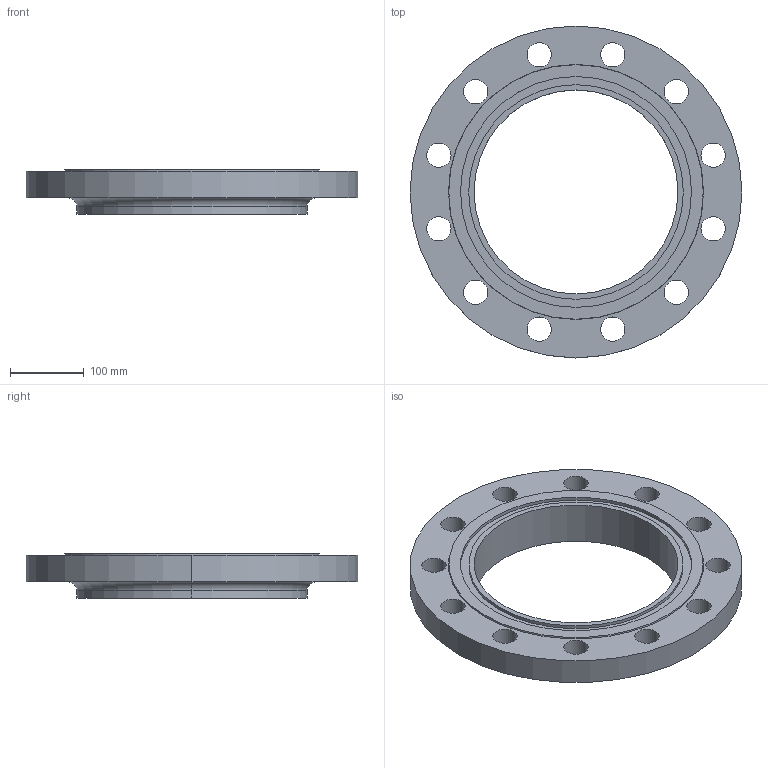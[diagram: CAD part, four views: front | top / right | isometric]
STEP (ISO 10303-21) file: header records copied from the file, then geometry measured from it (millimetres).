
FILE_DESCRIPTION (( 'STEP AP214' ), '1' );
FILE_NAME ('PN40 DN250 Type 12 - Type D Face.STEP', '2019-01-05T16:05:33', ( '' ), ( '' ), 'SwSTEP 2.0', 'SolidWorks 2019', '' );
FILE_SCHEMA (( 'AUTOMOTIVE_DESIGN' ));
Length unit declared in the file: millimetre
Products named in the file (1): PN40 DN250 Type 12 - Type D Face
Bounding box: 450 x 450 x 60 mm (x, y, z)
Volume: 3606513.2 mm3; surface area: 352206.8 mm2
Topology: 1 solids, 1 shells, 44 faces, 112 edges, 74 vertices
Faces by surface type: cylinder 34, plane 6, torus 2, cone 2
Entity records: 1462 total; most frequent: DIRECTION 278, CARTESIAN_POINT 231, ORIENTED_EDGE 224, AXIS2_PLACEMENT_3D 121, EDGE_CURVE 112, CIRCLE 76, VERTEX_POINT 74, EDGE_LOOP 74
